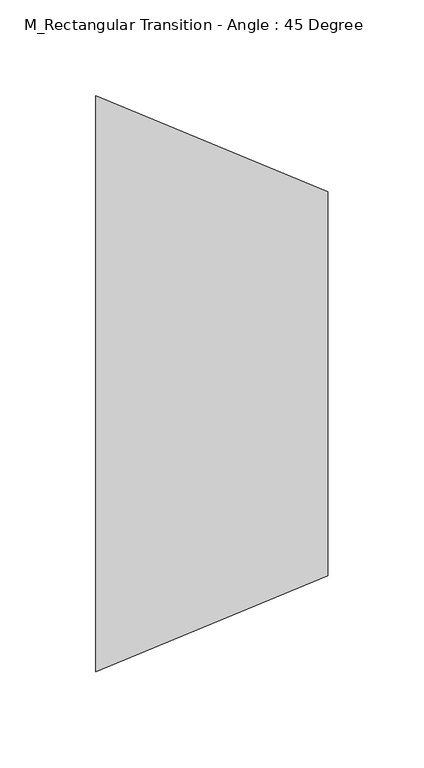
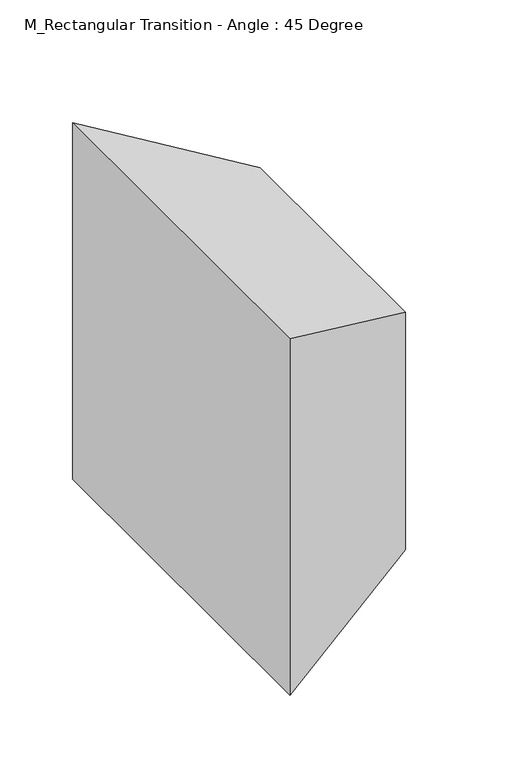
"""IFC4 building model written with IfcOpenShell, lengths in millimetres: duct fitting geometry, M_Rectangular Transition - Angle : 45 Degree."""

from ifc_helpers import new_model, si_unit, origin, place, context, project, spatial, faceted_brep, source, transform, mapped, element, save


def m_rectangular_transition_angle_45_degree_b2d7da8d(model_context):
    return source(origin(), model_context, "Body", "Brep", [
        faceted_brep([(120.7106781, -100.0, 100.0), (120.7106781, -100.0, -100.0), (120.7106781, 100.0, -100.0), (120.7106781, 100.0, 100.0), (0.0, -150.0, 150.0), (0.0, 150.0, 150.0), (0.0, 150.0, -150.0), (0.0, -150.0, -150.0)], [[[0, 1, 2, 3]], [[4, 5, 6, 7]], [[4, 7, 1, 0]], [[7, 6, 2, 1]], [[6, 5, 3, 2]], [[5, 4, 0, 3]]]),
        faceted_brep([(120.7106781, -100.0, 100.0), (120.7106781, -100.0, -100.0), (120.7106781, 100.0, -100.0), (120.7106781, 100.0, 100.0), (0.0, -150.0, 150.0), (0.0, 150.0, 150.0), (0.0, 150.0, -150.0), (0.0, -150.0, -150.0)], [[[0, 1, 2, 3]], [[4, 5, 6, 7]], [[4, 7, 1, 0]], [[7, 6, 2, 1]], [[6, 5, 3, 2]], [[5, 4, 0, 3]]]),
        faceted_brep([(120.7106781, -100.0, 100.0), (120.7106781, -100.0, -100.0), (120.7106781, 100.0, -100.0), (120.7106781, 100.0, 100.0), (0.0, -150.0, 150.0), (0.0, 150.0, 150.0), (0.0, 150.0, -150.0), (0.0, -150.0, -150.0)], [[[0, 1, 2, 3]], [[4, 5, 6, 7]], [[4, 7, 1, 0]], [[7, 6, 2, 1]], [[6, 5, 3, 2]], [[5, 4, 0, 3]]]),
    ])


if __name__ == "__main__":
    model = new_model("IFC4")
    model_context = context("Model", 3, world=origin())
    ifc_project = project(units=[si_unit("LENGTHUNIT", "METRE", prefix="MILLI")], contexts=[model_context])
    site = spatial("IfcSite", under=ifc_project)
    building = spatial("IfcBuilding", under=site)
    placement = place(None, origin())
    m_rectangular_transition_angle_45_degree_shape = m_rectangular_transition_angle_45_degree_b2d7da8d(model_context)
    element("IfcDuctFitting", 1, ObjectType="M_Rectangular Transition - Angle : 45 Degree", at=placement, inside=building, context=model_context, shape_type="MappedRepresentation", body=[
        mapped(m_rectangular_transition_angle_45_degree_shape, transform((0.0, 0.0, 0.0), x_axis=(1.0, 0.0, 0.0), y_axis=(0.0, 1.0, 0.0), z_axis=(0.0, 0.0, 1.0))),
    ])
    save(model, "model.ifc")
